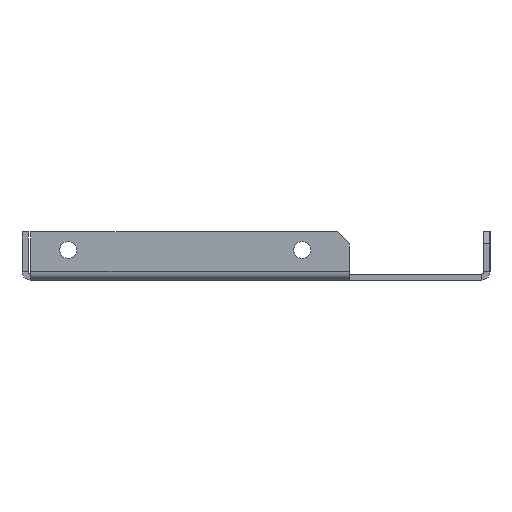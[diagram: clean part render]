
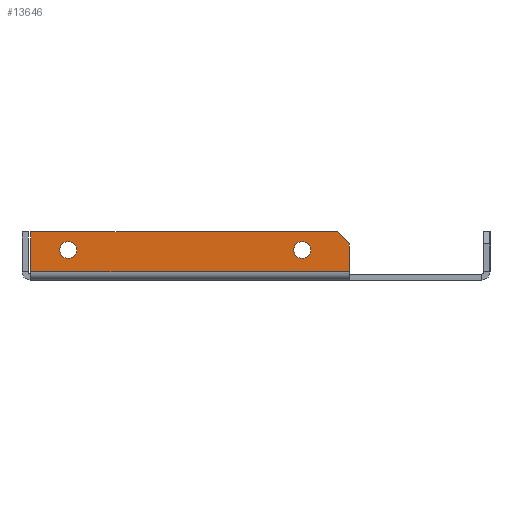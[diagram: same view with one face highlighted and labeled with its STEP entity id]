
A CAD part, left-side view. The second image highlights one B-rep face of the part: STEP entity #13646.
In plain terms, the highlighted planar face has unit normal (-1, 0, 0).
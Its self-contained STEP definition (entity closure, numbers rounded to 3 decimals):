
#8736=CARTESIAN_POINT(' ',(-234.5,-23.25,7.5));
#8737=VERTEX_POINT(' ',#8736);
#8751=CARTESIAN_POINT(' ',(-234.5,-23.25,7.5));
#8756=DIRECTION(' ',(0.,0.,-1.));
#8761=VECTOR(' ',#8756,1.);
#8766=LINE('',#8751,#8761);
#8771=CARTESIAN_POINT(' ',(-234.5,-23.25,0.6));
#8772=VERTEX_POINT(' ',#8771);
#8776=EDGE_CURVE(' ',#8737,#8772,#8766,.T.);
#11206=CARTESIAN_POINT(' ',(-234.5,-23.25,0.6));
#11211=DIRECTION(' ',(0.,1.,0.));
#11216=VECTOR(' ',#11211,1.);
#11221=LINE('',#11206,#11216);
#11226=CARTESIAN_POINT(' ',(-234.5,56.043,0.6));
#11227=VERTEX_POINT(' ',#11226);
#11231=EDGE_CURVE(' ',#8772,#11227,#11221,.T.);
#13286=CARTESIAN_POINT(' ',(-234.5,-20.25,10.5));
#13287=VERTEX_POINT(' ',#13286);
#13301=CARTESIAN_POINT(' ',(-234.5,-23.25,7.5));
#13306=DIRECTION(' ',(0.,0.707,0.707));
#13311=VECTOR(' ',#13306,1.);
#13316=LINE('',#13301,#13311);
#13321=EDGE_CURVE(' ',#8737,#13287,#13316,.T.);
#13351=DIRECTION(' ',(-1.,-0.,0.));
#13356=CARTESIAN_POINT(' ',(-234.5,-23.25,10.5));
#13361=DIRECTION(' ',(-0.,1.,0.));
#13366=AXIS2_PLACEMENT_3D(' ',#13356,#13351,#13361);
#13371=PLANE('NONE',#13366);
#13376=ORIENTED_EDGE(' ',*,*,#8776,.F.);
#13381=ORIENTED_EDGE(' ',*,*,#13321,.T.);
#13386=CARTESIAN_POINT(' ',(-234.5,-20.25,10.5));
#13391=DIRECTION(' ',(0.,1.,0.));
#13396=VECTOR(' ',#13391,1.);
#13401=LINE('',#13386,#13396);
#13406=CARTESIAN_POINT(' ',(-234.5,56.043,10.5));
#13407=VERTEX_POINT(' ',#13406);
#13411=EDGE_CURVE(' ',#13287,#13407,#13401,.T.);
#13416=ORIENTED_EDGE(' ',*,*,#13411,.T.);
#13421=CARTESIAN_POINT(' ',(-234.5,56.043,0.6));
#13426=DIRECTION(' ',(0.,0.,1.));
#13431=VECTOR(' ',#13426,1.);
#13436=LINE('',#13421,#13431);
#13441=EDGE_CURVE(' ',#11227,#13407,#13436,.T.);
#13446=ORIENTED_EDGE(' ',*,*,#13441,.F.);
#13451=ORIENTED_EDGE(' ',*,*,#11231,.F.);
#13456=EDGE_LOOP(' ',(#13376,#13381,#13416,#13446,#13451));
#13461=FACE_OUTER_BOUND(' ',#13456,.T.);
#13466=CARTESIAN_POINT(' ',(-234.5,-11.5,6.));
#13471=DIRECTION(' ',(-1.,-0.,0.));
#13476=DIRECTION(' ',(0.,0.,1.));
#13481=AXIS2_PLACEMENT_3D(' ',#13466,#13471,#13476);
#13486=CIRCLE('',#13481,2.1);
#13491=CARTESIAN_POINT(' ',(-234.5,-11.5,8.1));
#13492=VERTEX_POINT(' ',#13491);
#13496=CARTESIAN_POINT(' ',(-234.5,-11.5,3.9));
#13497=VERTEX_POINT(' ',#13496);
#13501=EDGE_CURVE(' ',#13492,#13497,#13486,.T.);
#13506=ORIENTED_EDGE(' ',*,*,#13501,.F.);
#13511=CARTESIAN_POINT(' ',(-234.5,-11.5,6.));
#13516=DIRECTION(' ',(-1.,0.,0.));
#13521=DIRECTION(' ',(0.,0.,-1.));
#13526=AXIS2_PLACEMENT_3D(' ',#13511,#13516,#13521);
#13531=CIRCLE('',#13526,2.1);
#13536=EDGE_CURVE(' ',#13497,#13492,#13531,.T.);
#13541=ORIENTED_EDGE(' ',*,*,#13536,.F.);
#13546=EDGE_LOOP(' ',(#13506,#13541));
#13551=FACE_BOUND(' ',#13546,.T.);
#13556=CARTESIAN_POINT(' ',(-234.5,46.75,6.));
#13561=DIRECTION(' ',(-1.,-0.,0.));
#13566=DIRECTION(' ',(0.,0.,1.));
#13571=AXIS2_PLACEMENT_3D(' ',#13556,#13561,#13566);
#13576=CIRCLE('',#13571,2.1);
#13581=CARTESIAN_POINT(' ',(-234.5,46.75,8.1));
#13582=VERTEX_POINT(' ',#13581);
#13586=CARTESIAN_POINT(' ',(-234.5,46.75,3.9));
#13587=VERTEX_POINT(' ',#13586);
#13591=EDGE_CURVE(' ',#13582,#13587,#13576,.T.);
#13596=ORIENTED_EDGE(' ',*,*,#13591,.F.);
#13601=CARTESIAN_POINT(' ',(-234.5,46.75,6.));
#13606=DIRECTION(' ',(-1.,0.,0.));
#13611=DIRECTION(' ',(0.,0.,-1.));
#13616=AXIS2_PLACEMENT_3D(' ',#13601,#13606,#13611);
#13621=CIRCLE('',#13616,2.1);
#13626=EDGE_CURVE(' ',#13587,#13582,#13621,.T.);
#13631=ORIENTED_EDGE(' ',*,*,#13626,.F.);
#13636=EDGE_LOOP(' ',(#13596,#13631));
#13641=FACE_BOUND(' ',#13636,.T.);
#13646=ADVANCED_FACE('NONE',(#13461,#13551,#13641),#13371,.T.);
